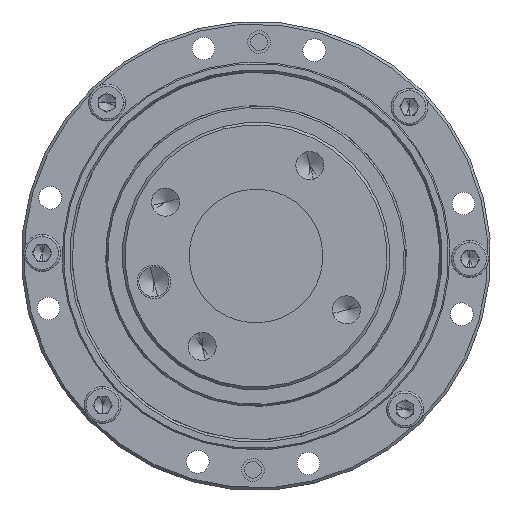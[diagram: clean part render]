
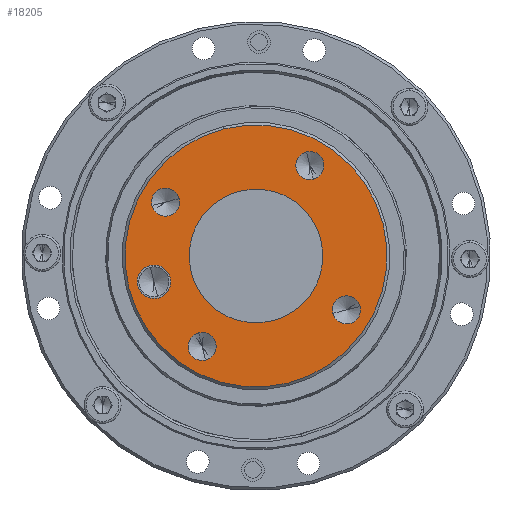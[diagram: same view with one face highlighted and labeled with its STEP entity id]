
A CAD part, left-side view. The second image highlights one B-rep face of the part: STEP entity #18205.
In plain terms, the highlighted planar face has unit normal (-1, 0, 0).
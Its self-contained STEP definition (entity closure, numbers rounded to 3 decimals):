
#29 = CARTESIAN_POINT ( 'NONE',  ( 1.722, 15.75, 2.5 ) ) ;
#84 = DIRECTION ( 'NONE',  ( -1., 0., 0. ) ) ;
#100 = VERTEX_POINT ( 'NONE', #19240 ) ;
#209 = EDGE_LOOP ( 'NONE', ( #16076, #10505 ) ) ;
#230 = AXIS2_PLACEMENT_3D ( 'NONE', #10414, #84, #12164 ) ;
#343 = CARTESIAN_POINT ( 'NONE',  ( 1.722, 19.6, 0. ) ) ;
#417 = CARTESIAN_POINT ( 'NONE',  ( 1.722, 0., 0. ) ) ;
#804 = CARTESIAN_POINT ( 'NONE',  ( 1.722, -11.137, -11.137 ) ) ;
#1119 = CIRCLE ( 'NONE', #2901, 19.6 ) ;
#1555 = AXIS2_PLACEMENT_3D ( 'NONE', #12928, #2564, #14677 ) ;
#1617 = DIRECTION ( 'NONE',  ( -1., 0., 0. ) ) ;
#2144 = DIRECTION ( 'NONE',  ( 0., 0., 1. ) ) ;
#2203 = AXIS2_PLACEMENT_3D ( 'NONE', #417, #12487, #2144 ) ;
#2517 = FACE_BOUND ( 'NONE', #14791, .T. ) ;
#2527 = DIRECTION ( 'NONE',  ( 0., 1., 0. ) ) ;
#2564 = DIRECTION ( 'NONE',  ( -1., 0., 0. ) ) ;
#2862 = EDGE_CURVE ( 'NONE', #7726, #22409, #21467, .T. ) ;
#2901 = AXIS2_PLACEMENT_3D ( 'NONE', #3588, #15722, #5323 ) ;
#3151 = CARTESIAN_POINT ( 'NONE',  ( 1.722, 15.75, 0. ) ) ;
#3329 = CIRCLE ( 'NONE', #22355, 19.6 ) ;
#3392 = VERTEX_POINT ( 'NONE', #7243 ) ;
#3588 = CARTESIAN_POINT ( 'NONE',  ( 1.722, 0., 0. ) ) ;
#4399 = DIRECTION ( 'NONE',  ( -1., 0., 0. ) ) ;
#4642 = CIRCLE ( 'NONE', #6056, 2.1 ) ;
#4765 = EDGE_CURVE ( 'NONE', #5085, #19202, #4642, .T. ) ;
#4870 = AXIS2_PLACEMENT_3D ( 'NONE', #5301, #17431, #7028 ) ;
#4871 = DIRECTION ( 'NONE',  ( 0., 0., 1. ) ) ;
#4990 = AXIS2_PLACEMENT_3D ( 'NONE', #14786, #4399, #16553 ) ;
#5085 = VERTEX_POINT ( 'NONE', #12040 ) ;
#5140 = EDGE_CURVE ( 'NONE', #3392, #7954, #1119, .T. ) ;
#5301 = CARTESIAN_POINT ( 'NONE',  ( 1.722, -11.137, 11.137 ) ) ;
#5323 = DIRECTION ( 'NONE',  ( 0., 0., 1. ) ) ;
#5442 = VERTEX_POINT ( 'NONE', #13007 ) ;
#5478 = DIRECTION ( 'NONE',  ( 1., 0., 0. ) ) ;
#5872 = VERTEX_POINT ( 'NONE', #17149 ) ;
#6052 = EDGE_CURVE ( 'NONE', #16504, #5872, #14086, .T. ) ;
#6056 = AXIS2_PLACEMENT_3D ( 'NONE', #804, #12898, #2527 ) ;
#6075 = CIRCLE ( 'NONE', #4990, 2.1 ) ;
#6995 = ORIENTED_EDGE ( 'NONE', *, *, #11744, .T. ) ;
#7028 = DIRECTION ( 'NONE',  ( 0., 0., -1. ) ) ;
#7118 = CIRCLE ( 'NONE', #13453, 2.5 ) ;
#7125 = FACE_BOUND ( 'NONE', #12718, .T. ) ;
#7223 = CIRCLE ( 'NONE', #13692, 2.1 ) ;
#7243 = CARTESIAN_POINT ( 'NONE',  ( 1.722, 0., 19.6 ) ) ;
#7282 = DIRECTION ( 'NONE',  ( -1., 0., 0. ) ) ;
#7670 = EDGE_CURVE ( 'NONE', #100, #5442, #21073, .T. ) ;
#7726 = VERTEX_POINT ( 'NONE', #20567 ) ;
#7954 = VERTEX_POINT ( 'NONE', #14345 ) ;
#8183 = ORIENTED_EDGE ( 'NONE', *, *, #12121, .F. ) ;
#8251 = EDGE_CURVE ( 'NONE', #21422, #16277, #7223, .T. ) ;
#8318 = DIRECTION ( 'NONE',  ( -1., 0., 0. ) ) ;
#8770 = CIRCLE ( 'NONE', #230, 10. ) ;
#8815 = CIRCLE ( 'NONE', #10478, 2.1 ) ;
#8933 = EDGE_LOOP ( 'NONE', ( #6995, #16957 ) ) ;
#9078 = DIRECTION ( 'NONE',  ( -1., 0., 0. ) ) ;
#9339 = ORIENTED_EDGE ( 'NONE', *, *, #22021, .F. ) ;
#9588 = AXIS2_PLACEMENT_3D ( 'NONE', #17692, #7282, #19413 ) ;
#9827 = AXIS2_PLACEMENT_3D ( 'NONE', #10039, #22208, #11793 ) ;
#9883 = ORIENTED_EDGE ( 'NONE', *, *, #15102, .F. ) ;
#10008 = CARTESIAN_POINT ( 'NONE',  ( 1.722, 11.137, -11.137 ) ) ;
#10039 = CARTESIAN_POINT ( 'NONE',  ( 1.722, 15.75, 0. ) ) ;
#10414 = CARTESIAN_POINT ( 'NONE',  ( 1.722, 0., 0. ) ) ;
#10417 = ORIENTED_EDGE ( 'NONE', *, *, #11517, .F. ) ;
#10478 = AXIS2_PLACEMENT_3D ( 'NONE', #11951, #1617, #13701 ) ;
#10505 = ORIENTED_EDGE ( 'NONE', *, *, #20182, .F. ) ;
#10849 = CIRCLE ( 'NONE', #9827, 2.5 ) ;
#11121 = ORIENTED_EDGE ( 'NONE', *, *, #16161, .F. ) ;
#11332 = ORIENTED_EDGE ( 'NONE', *, *, #8251, .F. ) ;
#11517 = EDGE_CURVE ( 'NONE', #13388, #18881, #7118, .T. ) ;
#11744 = EDGE_CURVE ( 'NONE', #7954, #3392, #3329, .T. ) ;
#11756 = DIRECTION ( 'NONE',  ( 0., 0., 1. ) ) ;
#11793 = DIRECTION ( 'NONE',  ( 0., 0., 1. ) ) ;
#11951 = CARTESIAN_POINT ( 'NONE',  ( 1.722, 11.137, -11.137 ) ) ;
#12040 = CARTESIAN_POINT ( 'NONE',  ( 1.722, -9.037, -11.137 ) ) ;
#12121 = EDGE_CURVE ( 'NONE', #18881, #13388, #10849, .T. ) ;
#12164 = DIRECTION ( 'NONE',  ( 0., 0., 1. ) ) ;
#12255 = FACE_BOUND ( 'NONE', #12540, .T. ) ;
#12432 = DIRECTION ( 'NONE',  ( 0., 0., -1. ) ) ;
#12487 = DIRECTION ( 'NONE',  ( -1., 0., 0. ) ) ;
#12540 = EDGE_LOOP ( 'NONE', ( #10417, #8183 ) ) ;
#12718 = EDGE_LOOP ( 'NONE', ( #13121, #11332 ) ) ;
#12898 = DIRECTION ( 'NONE',  ( -1., 0., 0. ) ) ;
#12928 = CARTESIAN_POINT ( 'NONE',  ( 1.722, -11.137, 11.137 ) ) ;
#13007 = CARTESIAN_POINT ( 'NONE',  ( 1.722, 11.137, -13.237 ) ) ;
#13121 = ORIENTED_EDGE ( 'NONE', *, *, #15655, .F. ) ;
#13388 = VERTEX_POINT ( 'NONE', #29 ) ;
#13453 = AXIS2_PLACEMENT_3D ( 'NONE', #3151, #15265, #4871 ) ;
#13692 = AXIS2_PLACEMENT_3D ( 'NONE', #18721, #8318, #20459 ) ;
#13701 = DIRECTION ( 'NONE',  ( 0., 0., 1. ) ) ;
#13893 = CARTESIAN_POINT ( 'NONE',  ( 1.722, -11.137, 9.037 ) ) ;
#14086 = CIRCLE ( 'NONE', #2203, 10. ) ;
#14169 = AXIS2_PLACEMENT_3D ( 'NONE', #343, #5478, #12432 ) ;
#14345 = CARTESIAN_POINT ( 'NONE',  ( 1.722, 0., -19.6 ) ) ;
#14677 = DIRECTION ( 'NONE',  ( 0., 0., -1. ) ) ;
#14786 = CARTESIAN_POINT ( 'NONE',  ( 1.722, -11.137, -11.137 ) ) ;
#14791 = EDGE_LOOP ( 'NONE', ( #20954, #11121 ) ) ;
#15102 = EDGE_CURVE ( 'NONE', #5442, #100, #8815, .T. ) ;
#15265 = DIRECTION ( 'NONE',  ( -1., 0., 0. ) ) ;
#15655 = EDGE_CURVE ( 'NONE', #16277, #21422, #21009, .T. ) ;
#15722 = DIRECTION ( 'NONE',  ( -1., 0., 0. ) ) ;
#15998 = EDGE_LOOP ( 'NONE', ( #9339, #16047 ) ) ;
#16047 = ORIENTED_EDGE ( 'NONE', *, *, #2862, .F. ) ;
#16076 = ORIENTED_EDGE ( 'NONE', *, *, #4765, .F. ) ;
#16161 = EDGE_CURVE ( 'NONE', #5872, #16504, #8770, .T. ) ;
#16277 = VERTEX_POINT ( 'NONE', #17593 ) ;
#16367 = FACE_BOUND ( 'NONE', #16450, .T. ) ;
#16450 = EDGE_LOOP ( 'NONE', ( #18910, #9883 ) ) ;
#16504 = VERTEX_POINT ( 'NONE', #19963 ) ;
#16552 = CARTESIAN_POINT ( 'NONE',  ( 1.722, 13.237, 11.137 ) ) ;
#16553 = DIRECTION ( 'NONE',  ( 0., 1., 0. ) ) ;
#16896 = FACE_BOUND ( 'NONE', #209, .T. ) ;
#16957 = ORIENTED_EDGE ( 'NONE', *, *, #5140, .T. ) ;
#17149 = CARTESIAN_POINT ( 'NONE',  ( 1.722, 0., -10. ) ) ;
#17431 = DIRECTION ( 'NONE',  ( -1., 0., 0. ) ) ;
#17593 = CARTESIAN_POINT ( 'NONE',  ( 1.722, 9.037, 11.137 ) ) ;
#17692 = CARTESIAN_POINT ( 'NONE',  ( 1.722, 11.137, 11.137 ) ) ;
#17958 = CARTESIAN_POINT ( 'NONE',  ( 1.722, 15.75, -2.5 ) ) ;
#18205 = ADVANCED_FACE ( 'NONE', ( #12255, #7125, #20938, #16896, #16367, #2517, #20390 ), #21085, .F. ) ;
#18483 = AXIS2_PLACEMENT_3D ( 'NONE', #10008, #22178, #11756 ) ;
#18721 = CARTESIAN_POINT ( 'NONE',  ( 1.722, 11.137, 11.137 ) ) ;
#18881 = VERTEX_POINT ( 'NONE', #17958 ) ;
#18910 = ORIENTED_EDGE ( 'NONE', *, *, #7670, .F. ) ;
#19202 = VERTEX_POINT ( 'NONE', #20487 ) ;
#19240 = CARTESIAN_POINT ( 'NONE',  ( 1.722, 11.137, -9.037 ) ) ;
#19413 = DIRECTION ( 'NONE',  ( 0., -1., 0. ) ) ;
#19491 = CARTESIAN_POINT ( 'NONE',  ( 1.722, 0., 0. ) ) ;
#19963 = CARTESIAN_POINT ( 'NONE',  ( 1.722, 0., 10. ) ) ;
#20096 = CIRCLE ( 'NONE', #1555, 2.1 ) ;
#20182 = EDGE_CURVE ( 'NONE', #19202, #5085, #6075, .T. ) ;
#20390 = FACE_OUTER_BOUND ( 'NONE', #8933, .T. ) ;
#20459 = DIRECTION ( 'NONE',  ( 0., -1., 0. ) ) ;
#20487 = CARTESIAN_POINT ( 'NONE',  ( 1.722, -13.237, -11.137 ) ) ;
#20567 = CARTESIAN_POINT ( 'NONE',  ( 1.722, -11.137, 13.237 ) ) ;
#20938 = FACE_BOUND ( 'NONE', #15998, .T. ) ;
#20954 = ORIENTED_EDGE ( 'NONE', *, *, #6052, .F. ) ;
#21009 = CIRCLE ( 'NONE', #9588, 2.1 ) ;
#21073 = CIRCLE ( 'NONE', #18483, 2.1 ) ;
#21085 = PLANE ( 'NONE',  #14169 ) ;
#21229 = DIRECTION ( 'NONE',  ( 0., 0., 1. ) ) ;
#21422 = VERTEX_POINT ( 'NONE', #16552 ) ;
#21467 = CIRCLE ( 'NONE', #4870, 2.1 ) ;
#22021 = EDGE_CURVE ( 'NONE', #22409, #7726, #20096, .T. ) ;
#22178 = DIRECTION ( 'NONE',  ( -1., 0., 0. ) ) ;
#22208 = DIRECTION ( 'NONE',  ( -1., 0., 0. ) ) ;
#22355 = AXIS2_PLACEMENT_3D ( 'NONE', #19491, #9078, #21229 ) ;
#22409 = VERTEX_POINT ( 'NONE', #13893 ) ;
